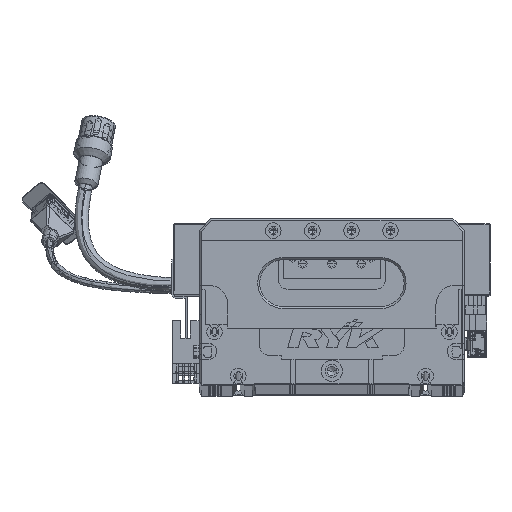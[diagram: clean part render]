
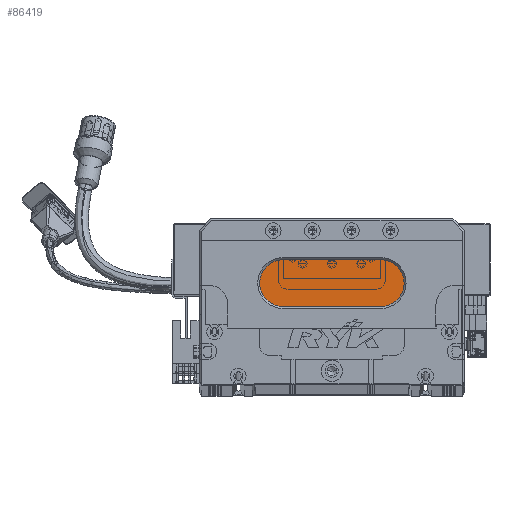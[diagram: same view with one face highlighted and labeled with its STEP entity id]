
A CAD part, top view. The second image highlights one B-rep face of the part: STEP entity #86419.
In plain terms, the highlighted planar face has unit normal (0, 0, 1) as drawn and (0, 0, -1) by its records, which use the part's own axes.
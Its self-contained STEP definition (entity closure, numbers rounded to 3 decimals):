
#4283 = CIRCLE ( 'NONE', #137741, 12. ) ;
#4306 = AXIS2_PLACEMENT_3D ( 'NONE', #69513, #92030, #24804 ) ;
#8879 = VERTEX_POINT ( 'NONE', #135366 ) ;
#10058 = PLANE ( 'NONE',  #17595 ) ;
#10781 = VECTOR ( 'NONE', #11224, 1000. ) ;
#11224 = DIRECTION ( 'NONE',  ( 1., 0., 0. ) ) ;
#13754 = VERTEX_POINT ( 'NONE', #65002 ) ;
#16133 = VERTEX_POINT ( 'NONE', #132665 ) ;
#17595 = AXIS2_PLACEMENT_3D ( 'NONE', #143457, #33069, #133631 ) ;
#22030 = ORIENTED_EDGE ( 'NONE', *, *, #78252, .T. ) ;
#24525 = CARTESIAN_POINT ( 'NONE',  ( 31., 52., 13. ) ) ;
#24804 = DIRECTION ( 'NONE',  ( -1., 0., 0. ) ) ;
#32204 = EDGE_CURVE ( 'NONE', #119082, #13754, #4283, .T. ) ;
#33069 = DIRECTION ( 'NONE',  ( 0., 0., -1. ) ) ;
#35491 = DIRECTION ( 'NONE',  ( 0., 0., -1. ) ) ;
#40604 = LINE ( 'NONE', #124041, #10781 ) ;
#42552 = ORIENTED_EDGE ( 'NONE', *, *, #61608, .T. ) ;
#42880 = ORIENTED_EDGE ( 'NONE', *, *, #32204, .T. ) ;
#44820 = VERTEX_POINT ( 'NONE', #24525 ) ;
#47072 = CARTESIAN_POINT ( 'NONE',  ( 93., 64., 13. ) ) ;
#50258 = ORIENTED_EDGE ( 'NONE', *, *, #144757, .T. ) ;
#61608 = EDGE_CURVE ( 'NONE', #16133, #119082, #40604, .T. ) ;
#62592 = FACE_OUTER_BOUND ( 'NONE', #65631, .T. ) ;
#65002 = CARTESIAN_POINT ( 'NONE',  ( 93., 40., 13. ) ) ;
#65631 = EDGE_LOOP ( 'NONE', ( #42880, #22030, #124877, #50258, #42552 ) ) ;
#69513 = CARTESIAN_POINT ( 'NONE',  ( 43., 52., 13. ) ) ;
#71968 = DIRECTION ( 'NONE',  ( -1., 0., 0. ) ) ;
#77504 = AXIS2_PLACEMENT_3D ( 'NONE', #102710, #35491, #114002 ) ;
#78252 = EDGE_CURVE ( 'NONE', #13754, #8879, #132510, .T. ) ;
#81214 = DIRECTION ( 'NONE',  ( 0., 0., -1. ) ) ;
#86419 = ADVANCED_FACE ( 'NONE', ( #62592 ), #10058, .T. ) ;
#92030 = DIRECTION ( 'NONE',  ( 0., 0., -1. ) ) ;
#92506 = DIRECTION ( 'NONE',  ( -1., 0., 0. ) ) ;
#94032 = CARTESIAN_POINT ( 'NONE',  ( 93., 40., 13. ) ) ;
#96052 = EDGE_CURVE ( 'NONE', #8879, #44820, #108989, .T. ) ;
#99125 = VECTOR ( 'NONE', #71968, 1000. ) ;
#102710 = CARTESIAN_POINT ( 'NONE',  ( 43., 52., 13. ) ) ;
#108989 = CIRCLE ( 'NONE', #77504, 12. ) ;
#112661 = CIRCLE ( 'NONE', #4306, 12. ) ;
#114002 = DIRECTION ( 'NONE',  ( -1., 0., 0. ) ) ;
#119082 = VERTEX_POINT ( 'NONE', #47072 ) ;
#124041 = CARTESIAN_POINT ( 'NONE',  ( 93., 64., 13. ) ) ;
#124877 = ORIENTED_EDGE ( 'NONE', *, *, #96052, .T. ) ;
#127804 = CARTESIAN_POINT ( 'NONE',  ( 93., 52., 13. ) ) ;
#132510 = LINE ( 'NONE', #94032, #99125 ) ;
#132665 = CARTESIAN_POINT ( 'NONE',  ( 43., 64., 13. ) ) ;
#133631 = DIRECTION ( 'NONE',  ( -1., 0., 0. ) ) ;
#135366 = CARTESIAN_POINT ( 'NONE',  ( 43., 40., 13. ) ) ;
#137741 = AXIS2_PLACEMENT_3D ( 'NONE', #127804, #81214, #92506 ) ;
#143457 = CARTESIAN_POINT ( 'NONE',  ( 93., 52., 13. ) ) ;
#144757 = EDGE_CURVE ( 'NONE', #44820, #16133, #112661, .T. ) ;
